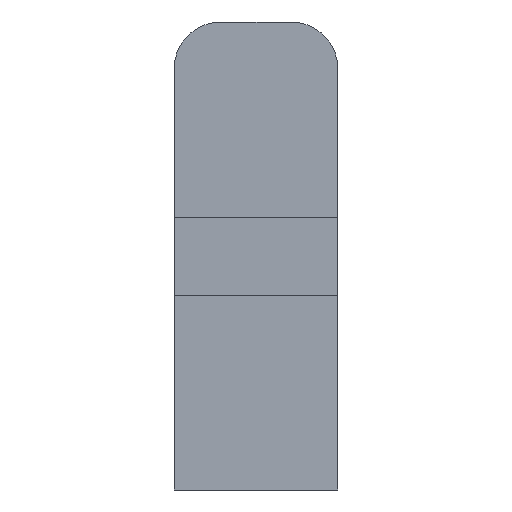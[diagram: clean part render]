
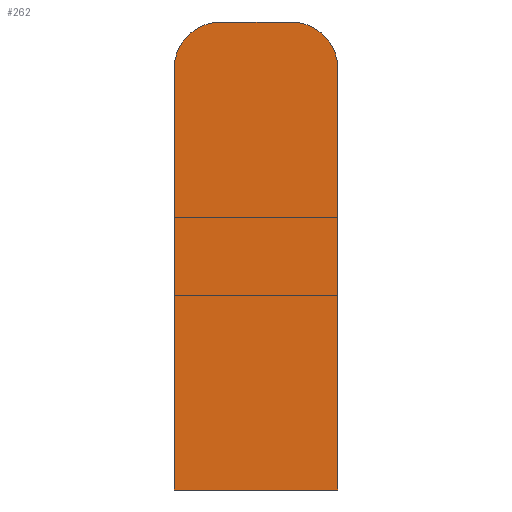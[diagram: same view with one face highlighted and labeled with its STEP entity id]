
A CAD part, front view. The second image highlights one B-rep face of the part: STEP entity #262.
In plain terms, the highlighted planar face has unit normal (0, -1, 0).
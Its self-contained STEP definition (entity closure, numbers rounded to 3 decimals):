
#5 = EDGE_LOOP ( 'NONE', ( #360, #384, #365, #371, #276, #277 ) ) ;
#16 = EDGE_CURVE ( 'NONE', #81, #82, #300, .T. ) ;
#26 = EDGE_CURVE ( 'NONE', #99, #100, #315, .T. ) ;
#29 = EDGE_CURVE ( 'NONE', #92, #88, #314, .T. ) ;
#31 = EDGE_CURVE ( 'NONE', #82, #99, #324, .T. ) ;
#37 = EDGE_CURVE ( 'NONE', #100, #92, #336, .T. ) ;
#42 = EDGE_CURVE ( 'NONE', #88, #81, #343, .T. ) ;
#44 = AXIS2_PLACEMENT_3D ( 'NONE', #129, #140, #141 ) ;
#51 = AXIS2_PLACEMENT_3D ( 'NONE', #153, #155, #156 ) ;
#54 = AXIS2_PLACEMENT_3D ( 'NONE', #211, #206, #193 ) ;
#77 = DIRECTION ( 'NONE',  ( 0., 0., 1. ) ) ;
#79 = CARTESIAN_POINT ( 'NONE',  ( 5.25, 0., -16.5 ) ) ;
#81 = VERTEX_POINT ( 'NONE', #174 ) ;
#82 = VERTEX_POINT ( 'NONE', #154 ) ;
#88 = VERTEX_POINT ( 'NONE', #151 ) ;
#92 = VERTEX_POINT ( 'NONE', #181 ) ;
#99 = VERTEX_POINT ( 'NONE', #187 ) ;
#100 = VERTEX_POINT ( 'NONE', #188 ) ;
#127 = CARTESIAN_POINT ( 'NONE',  ( 2.25, 0., 13.5 ) ) ;
#128 = DIRECTION ( 'NONE',  ( -1., 0., 0. ) ) ;
#129 = CARTESIAN_POINT ( 'NONE',  ( 2.25, 0., 10.5 ) ) ;
#135 = CARTESIAN_POINT ( 'NONE',  ( -5.25, 0., -16.5 ) ) ;
#136 = DIRECTION ( 'NONE',  ( 0., 0., -1. ) ) ;
#140 = DIRECTION ( 'NONE',  ( 0., -1., 0. ) ) ;
#141 = DIRECTION ( 'NONE',  ( -1., 0., 0. ) ) ;
#151 = CARTESIAN_POINT ( 'NONE',  ( -5.25, 0., -16.5 ) ) ;
#153 = CARTESIAN_POINT ( 'NONE',  ( -2.25, 0., 10.5 ) ) ;
#154 = CARTESIAN_POINT ( 'NONE',  ( 5.25, 0., 10.5 ) ) ;
#155 = DIRECTION ( 'NONE',  ( 0., -1., 0. ) ) ;
#156 = DIRECTION ( 'NONE',  ( -1., 0., 0. ) ) ;
#165 = CARTESIAN_POINT ( 'NONE',  ( 5.25, 0., -16.5 ) ) ;
#166 = DIRECTION ( 'NONE',  ( 1., 0., 0. ) ) ;
#174 = CARTESIAN_POINT ( 'NONE',  ( 5.25, 0., -16.5 ) ) ;
#181 = CARTESIAN_POINT ( 'NONE',  ( -5.25, 0., 10.5 ) ) ;
#187 = CARTESIAN_POINT ( 'NONE',  ( 2.25, 0., 13.5 ) ) ;
#188 = CARTESIAN_POINT ( 'NONE',  ( -2.25, 0., 13.5 ) ) ;
#193 = DIRECTION ( 'NONE',  ( -1., 0., 0. ) ) ;
#206 = DIRECTION ( 'NONE',  ( 0., 1., 0. ) ) ;
#211 = CARTESIAN_POINT ( 'NONE',  ( 0., 0., -1.5 ) ) ;
#212 = PLANE ( 'NONE',  #54 ) ;
#262 = ADVANCED_FACE ( 'NONE', ( #390 ), #212, .F. ) ;
#276 = ORIENTED_EDGE ( 'NONE', *, *, #29, .T. ) ;
#277 = ORIENTED_EDGE ( 'NONE', *, *, #42, .T. ) ;
#297 = VECTOR ( 'NONE', #77, 1000. ) ;
#300 = LINE ( 'NONE', #79, #297 ) ;
#314 = LINE ( 'NONE', #135, #317 ) ;
#315 = LINE ( 'NONE', #127, #316 ) ;
#316 = VECTOR ( 'NONE', #128, 1000. ) ;
#317 = VECTOR ( 'NONE', #136, 1000. ) ;
#324 = CIRCLE ( 'NONE', #44, 3. ) ;
#336 = CIRCLE ( 'NONE', #51, 3. ) ;
#343 = LINE ( 'NONE', #165, #344 ) ;
#344 = VECTOR ( 'NONE', #166, 1000. ) ;
#360 = ORIENTED_EDGE ( 'NONE', *, *, #16, .T. ) ;
#365 = ORIENTED_EDGE ( 'NONE', *, *, #26, .T. ) ;
#371 = ORIENTED_EDGE ( 'NONE', *, *, #37, .T. ) ;
#384 = ORIENTED_EDGE ( 'NONE', *, *, #31, .T. ) ;
#390 = FACE_OUTER_BOUND ( 'NONE', #5, .T. ) ;
